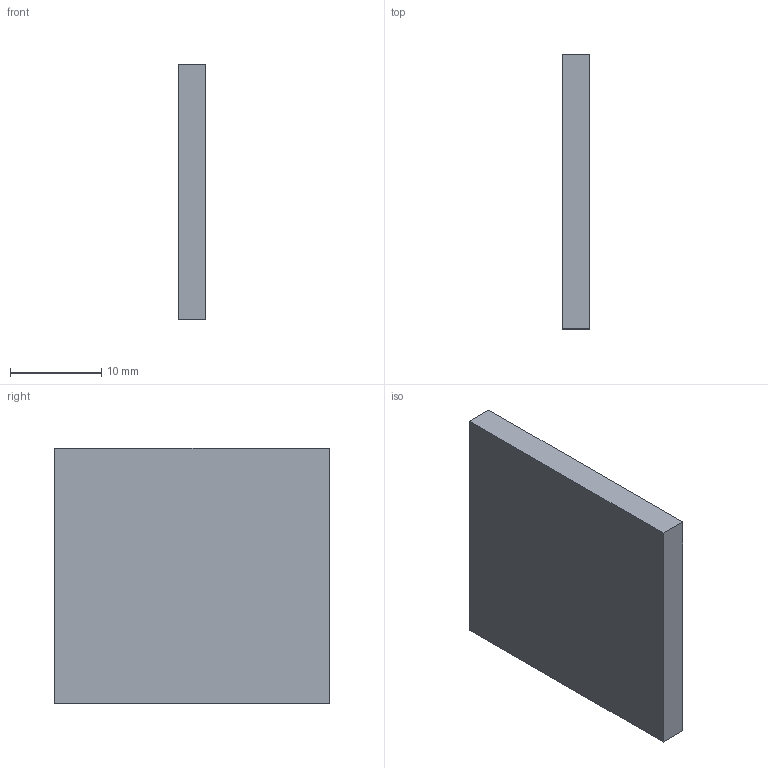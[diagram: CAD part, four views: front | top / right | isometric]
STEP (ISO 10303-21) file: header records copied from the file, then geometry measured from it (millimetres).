
FILE_DESCRIPTION(('Open CASCADE Model'),'2;1');
FILE_NAME('rbf','2026-08-12T02:42:46',('Author'),('Open CASCADE'), 'Open CASCADE STEP processor 7.9','build123d','Unknown');
FILE_SCHEMA(('AUTOMOTIVE_DESIGN { 1 0 10303 214 1 1 1 1 }'));
Length unit declared in the file: millimetre
Products named in the file (2): rbf
Assembly tree (1 placements, depth 2):
  rbf
    rbf
Bounding box: 3 x 30 x 28 mm (x, y, z)
Volume: 2520 mm3; surface area: 2028 mm2
Topology: 1 solids, 1 shells, 6 faces, 12 edges, 8 vertices
Faces by surface type: plane 6
Entity records: 340 total; most frequent: CARTESIAN_POINT 52, DIRECTION 52, LINE 36, VECTOR 36, ORIENTED_EDGE 24, PCURVE 24, DEFINITIONAL_REPRESENTATION 24, EDGE_CURVE 12
